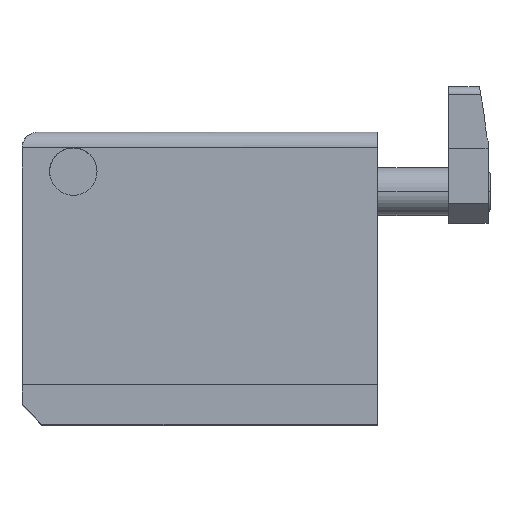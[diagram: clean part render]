
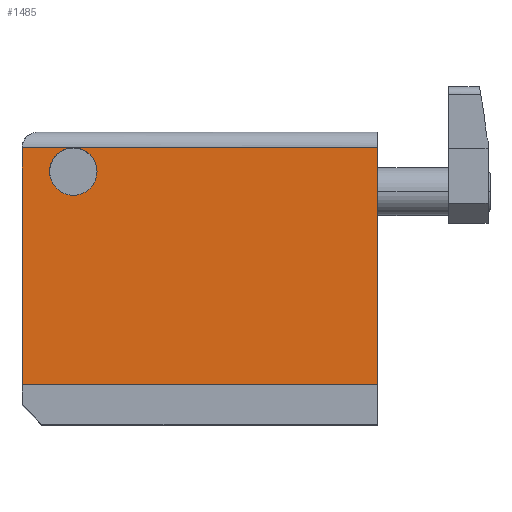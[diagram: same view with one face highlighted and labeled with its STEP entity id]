
A CAD part, top view. The second image highlights one B-rep face of the part: STEP entity #1485.
In plain terms, the highlighted planar face has unit normal (0, 0, 1).
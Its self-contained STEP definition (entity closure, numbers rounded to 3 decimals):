
#1176 = VERTEX_POINT ( 'NONE', #4609 ) ;
#1178 = EDGE_CURVE ( 'NONE', #1176, #1179, #4608, .T. ) ;
#1179 = VERTEX_POINT ( 'NONE', #4603 ) ;
#1320 = EDGE_CURVE ( 'NONE', #1179, #1321, #4817, .T. ) ;
#1321 = VERTEX_POINT ( 'NONE', #4812 ) ;
#1324 = VERTEX_POINT ( 'NONE', #4874 ) ;
#1326 = EDGE_CURVE ( 'NONE', #1324, #1176, #4873, .T. ) ;
#1336 = EDGE_CURVE ( 'NONE', #1337, #1362, #4848, .T. ) ;
#1337 = VERTEX_POINT ( 'NONE', #4910 ) ;
#1361 = EDGE_CURVE ( 'NONE', #1362, #1363, #4934, .T. ) ;
#1362 = VERTEX_POINT ( 'NONE', #4930 ) ;
#1363 = VERTEX_POINT ( 'NONE', #4929 ) ;
#1424 = VERTEX_POINT ( 'NONE', #5024 ) ;
#1426 = EDGE_CURVE ( 'NONE', #1424, #1363, #5023, .T. ) ;
#1464 = ORIENTED_EDGE ( 'NONE', *, *, #1465, .T. ) ;
#1465 = EDGE_CURVE ( 'NONE', #1424, #1321, #5081, .T. ) ;
#1466 = ORIENTED_EDGE ( 'NONE', *, *, #1320, .F. ) ;
#1467 = ORIENTED_EDGE ( 'NONE', *, *, #1178, .F. ) ;
#1468 = ORIENTED_EDGE ( 'NONE', *, *, #1326, .F. ) ;
#1469 = ORIENTED_EDGE ( 'NONE', *, *, #1470, .T. ) ;
#1470 = EDGE_CURVE ( 'NONE', #1324, #1337, #5077, .T. ) ;
#1471 = ORIENTED_EDGE ( 'NONE', *, *, #1336, .T. ) ;
#1472 = ORIENTED_EDGE ( 'NONE', *, *, #1361, .T. ) ;
#1485 = ADVANCED_FACE ( 'NONE', ( #5123 ), #5122, .F. ) ;
#1486 = EDGE_LOOP ( 'NONE', ( #1487, #1464, #1466, #1467, #1468, #1469, #1471, #1472 ) ) ;
#1487 = ORIENTED_EDGE ( 'NONE', *, *, #1426, .F. ) ;
#4603 = CARTESIAN_POINT ( 'NONE',  ( 19.005, 64., 111. ) ) ;
#4604 = DIRECTION ( 'NONE',  ( 1., 0., 0. ) ) ;
#4605 = DIRECTION ( 'NONE',  ( 0., 0., 1. ) ) ;
#4606 = CARTESIAN_POINT ( 'NONE',  ( 13., 64., 111. ) ) ;
#4607 = AXIS2_PLACEMENT_3D ( 'NONE', #4606, #4605, #4604 ) ;
#4608 = CIRCLE ( 'NONE', #4607, 6.005 ) ;
#4609 = CARTESIAN_POINT ( 'NONE',  ( 6.995, 64., 111. ) ) ;
#4812 = CARTESIAN_POINT ( 'NONE',  ( 13.245, 70., 111. ) ) ;
#4813 = DIRECTION ( 'NONE',  ( 1., 0., 0. ) ) ;
#4814 = DIRECTION ( 'NONE',  ( 0., 0., 1. ) ) ;
#4815 = CARTESIAN_POINT ( 'NONE',  ( 13., 64., 111. ) ) ;
#4816 = AXIS2_PLACEMENT_3D ( 'NONE', #4815, #4814, #4813 ) ;
#4817 = CIRCLE ( 'NONE', #4816, 6.005 ) ;
#4845 = DIRECTION ( 'NONE',  ( 0., -1., 0. ) ) ;
#4846 = VECTOR ( 'NONE', #4845, 1000. ) ;
#4847 = CARTESIAN_POINT ( 'NONE',  ( 0., 74., 111. ) ) ;
#4848 = LINE ( 'NONE', #4847, #4846 ) ;
#4869 = DIRECTION ( 'NONE',  ( 1., 0., 0. ) ) ;
#4870 = DIRECTION ( 'NONE',  ( 0., 0., 1. ) ) ;
#4871 = CARTESIAN_POINT ( 'NONE',  ( 13., 64., 111. ) ) ;
#4872 = AXIS2_PLACEMENT_3D ( 'NONE', #4871, #4870, #4869 ) ;
#4873 = CIRCLE ( 'NONE', #4872, 6.005 ) ;
#4874 = CARTESIAN_POINT ( 'NONE',  ( 12.755, 70., 111. ) ) ;
#4910 = CARTESIAN_POINT ( 'NONE',  ( 0., 70., 111. ) ) ;
#4929 = CARTESIAN_POINT ( 'NONE',  ( 90., 10., 111. ) ) ;
#4930 = CARTESIAN_POINT ( 'NONE',  ( 0., 10., 111. ) ) ;
#4931 = DIRECTION ( 'NONE',  ( 1., 0., 0. ) ) ;
#4932 = VECTOR ( 'NONE', #4931, 1000. ) ;
#4933 = CARTESIAN_POINT ( 'NONE',  ( 0., 10., 111. ) ) ;
#4934 = LINE ( 'NONE', #4933, #4932 ) ;
#5020 = DIRECTION ( 'NONE',  ( 0., -1., 0. ) ) ;
#5021 = VECTOR ( 'NONE', #5020, 1000. ) ;
#5022 = CARTESIAN_POINT ( 'NONE',  ( 90., 74., 111. ) ) ;
#5023 = LINE ( 'NONE', #5022, #5021 ) ;
#5024 = CARTESIAN_POINT ( 'NONE',  ( 90., 70., 111. ) ) ;
#5074 = DIRECTION ( 'NONE',  ( -1., 0., 0. ) ) ;
#5075 = VECTOR ( 'NONE', #5074, 1000. ) ;
#5076 = CARTESIAN_POINT ( 'NONE',  ( 0., 70., 111. ) ) ;
#5077 = LINE ( 'NONE', #5076, #5075 ) ;
#5078 = DIRECTION ( 'NONE',  ( -1., 0., 0. ) ) ;
#5079 = VECTOR ( 'NONE', #5078, 1000. ) ;
#5080 = CARTESIAN_POINT ( 'NONE',  ( 0., 70., 111. ) ) ;
#5081 = LINE ( 'NONE', #5080, #5079 ) ;
#5118 = DIRECTION ( 'NONE',  ( -1., 0., 0. ) ) ;
#5119 = DIRECTION ( 'NONE',  ( 0., 0., -1. ) ) ;
#5120 = CARTESIAN_POINT ( 'NONE',  ( 0., 74., 111. ) ) ;
#5121 = AXIS2_PLACEMENT_3D ( 'NONE', #5120, #5119, #5118 ) ;
#5122 = PLANE ( 'NONE',  #5121 ) ;
#5123 = FACE_OUTER_BOUND ( 'NONE', #1486, .T. ) ;
